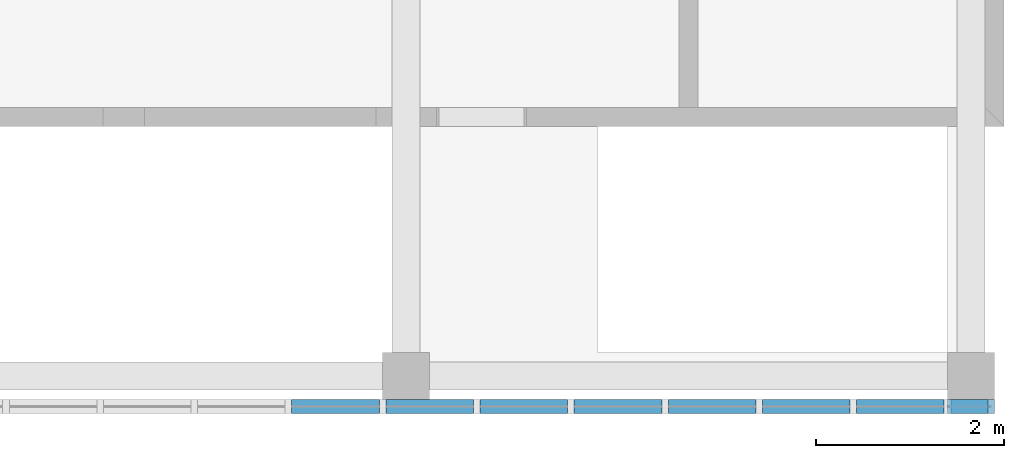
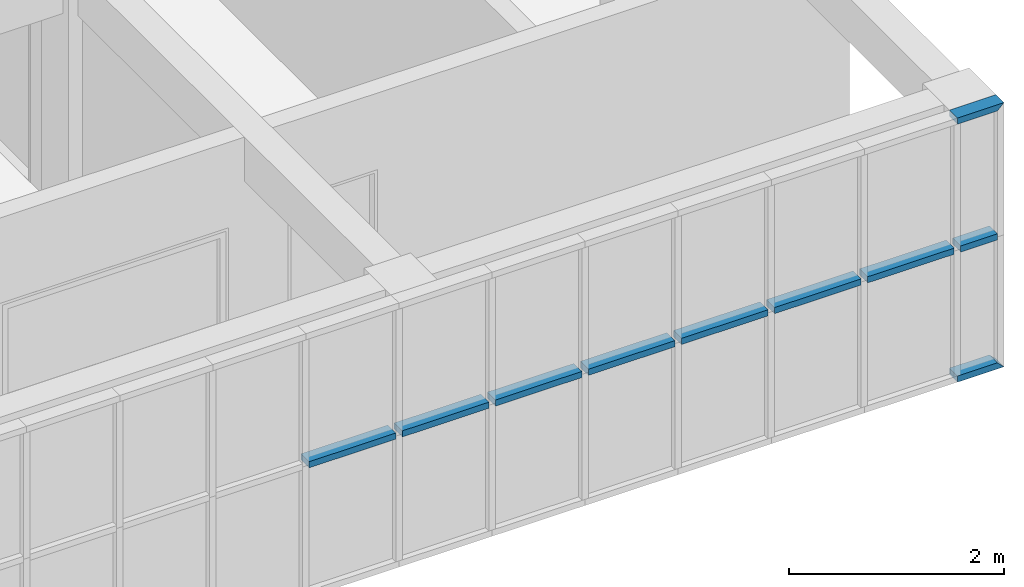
# One storey, part 4 of 4: 10 discrete accessories, 1 element without a shape of its own.
"""IFC2X3 building model written with IfcOpenShell, lengths in millimetres."""

from ifc_helpers import new_model, entity, si_unit, converted_unit, direction, frame, origin_with_axes, place, context, project, spatial, polyline, outline, extrude, source, transform, mapped, type_object, element, aggregate, save


model = new_model("IFC2X3")

# Units and contexts
model_context = context("Model", 3, precision=1e-05, world=origin_with_axes(), true_north=direction((6.123234e-17, 1.0)))
plan_context = context("Plan", 3, precision=1e-05, world=origin_with_axes(), true_north=direction((6.123234e-17, 1.0)))
ifc_project = project(units=[si_unit("LENGTHUNIT", "METRE", prefix="MILLI"), si_unit("AREAUNIT", "SQUARE_METRE"), si_unit("VOLUMEUNIT", "CUBIC_METRE"), converted_unit("PLANEANGLEUNIT", "DEGREE", entity("IfcPlaneAngleMeasure", 0.017453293), si_unit("PLANEANGLEUNIT", "RADIAN"), dimensions=[0, 0, 0, 0, 0, 0, 0]), si_unit("SOLIDANGLEUNIT", "STERADIAN"), si_unit("MASSUNIT", "GRAM"), si_unit("TIMEUNIT", "SECOND"), si_unit("THERMODYNAMICTEMPERATUREUNIT", "DEGREE_CELSIUS"), si_unit("LUMINOUSINTENSITYUNIT", "LUMEN")], contexts=[model_context, plan_context])

# Site, building, storey
site_placement = place(None, origin_with_axes())
site = spatial("IfcSite", under=ifc_project, at=site_placement, Name="\x8aO\x8d\\", CompositionType="ELEMENT")
building_placement = place(site_placement, origin_with_axes())
building = spatial("IfcBuilding", under=site, at=building_placement, Name="20101105_ArchCADMagic_002", CompositionType="ELEMENT")
storey_placement = place(building_placement, frame((0.0, 0.0, 6450.0), z_axis=(0.0, 0.0, 1.0), x_axis=(1.0, 0.0, 0.0)))
storey = spatial("IfcBuildingStorey", under=building, at=storey_placement, Name="2. 3\x8aK", CompositionType="ELEMENT", Elevation=6450.0)

# Curtain wall, discrete accessories
curtain_wall_placement = place(storey_placement, frame((-250.0, -325.0, 0.0), z_axis=(0.0, 0.0, 1.0), x_axis=(1.0, 0.0, 0.0)))
curtain_wall = element("IfcCurtainWall", 1, at=curtain_wall_placement, inside=storey, Name="CW5")
discrete_accessory_type = type_object("IfcDiscreteAccessoryType", Name="AC12_CW_Frame")
shared_shape_1 = source(origin_with_axes(), model_context, "Body", "SweptSolid", [
    extrude(outline(polyline([(0.0, 0.0), (150.0, 0.0), (150.0, -930.0), (5.5511151e-14, -930.0), (0.0, 0.0)])), origin_with_axes(), (0.0, 0.0, 1.0), 70.0),
])
discrete_accessory_1_placement = place(storey_placement, frame((16785.0, -250.0, 1535.0), z_axis=(0.0, 0.0, -1.0), x_axis=(0.0, -1.0, 0.0)))
discrete_accessory_1 = element("IfcDiscreteAccessory", 2, at=discrete_accessory_1_placement, type_object=discrete_accessory_type, Name="\x83g\x83\x89\x83\x93\x83U\x83\x80-456", context=model_context, shape_type="MappedRepresentation", body=[
    mapped(shared_shape_1, transform((0.0, 0.0, 0.0), scale=1.0)),
])
discrete_accessory_2_placement = place(storey_placement, frame((17785.0, -250.0, 1535.0), z_axis=(0.0, 0.0, -1.0), x_axis=(0.0, -1.0, 0.0)))
discrete_accessory_2 = element("IfcDiscreteAccessory", 3, at=discrete_accessory_2_placement, type_object=discrete_accessory_type, Name="\x83g\x83\x89\x83\x93\x83U\x83\x80-457", context=model_context, shape_type="MappedRepresentation", body=[
    mapped(shared_shape_1, transform((0.0, 0.0, 0.0), scale=1.0)),
])
discrete_accessory_3_placement = place(storey_placement, frame((18785.0, -250.0, 1535.0), z_axis=(0.0, 0.0, -1.0), x_axis=(0.0, -1.0, 0.0)))
discrete_accessory_3 = element("IfcDiscreteAccessory", 4, at=discrete_accessory_3_placement, type_object=discrete_accessory_type, Name="\x83g\x83\x89\x83\x93\x83U\x83\x80-458", context=model_context, shape_type="MappedRepresentation", body=[
    mapped(shared_shape_1, transform((0.0, 0.0, 0.0), scale=1.0)),
])
discrete_accessory_4_placement = place(storey_placement, frame((19785.0, -250.0, 1535.0), z_axis=(0.0, 0.0, -1.0), x_axis=(0.0, -1.0, 0.0)))
discrete_accessory_4 = element("IfcDiscreteAccessory", 5, at=discrete_accessory_4_placement, type_object=discrete_accessory_type, Name="\x83g\x83\x89\x83\x93\x83U\x83\x80-459", context=model_context, shape_type="MappedRepresentation", body=[
    mapped(shared_shape_1, transform((0.0, 0.0, 0.0), scale=1.0)),
])
discrete_accessory_5_placement = place(storey_placement, frame((20785.0, -250.0, 1535.0), z_axis=(0.0, 0.0, -1.0), x_axis=(0.0, -1.0, 0.0)))
discrete_accessory_5 = element("IfcDiscreteAccessory", 6, at=discrete_accessory_5_placement, type_object=discrete_accessory_type, Name="\x83g\x83\x89\x83\x93\x83U\x83\x80-460", context=model_context, shape_type="MappedRepresentation", body=[
    mapped(shared_shape_1, transform((0.0, 0.0, 0.0), scale=1.0)),
])
discrete_accessory_6_placement = place(storey_placement, frame((21785.0, -250.0, 1535.0), z_axis=(0.0, 0.0, -1.0), x_axis=(0.0, -1.0, 0.0)))
discrete_accessory_6 = element("IfcDiscreteAccessory", 7, at=discrete_accessory_6_placement, type_object=discrete_accessory_type, Name="\x83g\x83\x89\x83\x93\x83U\x83\x80-461", context=model_context, shape_type="MappedRepresentation", body=[
    mapped(shared_shape_1, transform((0.0, 0.0, 0.0), scale=1.0)),
])
discrete_accessory_7_placement = place(storey_placement, frame((22785.0, -250.0, 1535.0), z_axis=(0.0, 0.0, -1.0), x_axis=(0.0, -1.0, 0.0)))
discrete_accessory_7 = element("IfcDiscreteAccessory", 8, at=discrete_accessory_7_placement, type_object=discrete_accessory_type, Name="\x83g\x83\x89\x83\x93\x83U\x83\x80-462", context=model_context, shape_type="MappedRepresentation", body=[
    mapped(shared_shape_1, transform((0.0, 0.0, 0.0), scale=1.0)),
])
shared_shape_2 = source(origin_with_axes(), model_context, "Body", "SweptSolid", [
    extrude(outline(polyline([(0.0, 0.0), (70.0, 0.0), (70.0, -430.0), (0.0, -500.0), (0.0, 0.0)])), origin_with_axes(), (0.0, 0.0, 1.0), 150.0),
])
discrete_accessory_8_placement = place(storey_placement, frame((23750.0, -400.0, 3000.0), z_axis=(0.0, 1.0, 0.0), x_axis=(0.0, 0.0, -1.0)))
discrete_accessory_8 = element("IfcDiscreteAccessory", 9, at=discrete_accessory_8_placement, type_object=discrete_accessory_type, Name="\x8b«\x8aE-819", context=model_context, shape_type="MappedRepresentation", body=[
    mapped(shared_shape_2, transform((0.0, 0.0, 0.0), scale=1.0)),
])
shared_shape_3 = source(origin_with_axes(), model_context, "Body", "SweptSolid", [
    extrude(outline(polyline([(0.0, 0.0), (150.0, 0.0), (150.0, -395.0), (5.5511151e-14, -395.0), (0.0, 0.0)])), origin_with_axes(), (0.0, 0.0, 1.0), 70.0),
])
discrete_accessory_9_placement = place(storey_placement, frame((23785.0, -250.0, 1535.0), z_axis=(0.0, 0.0, -1.0), x_axis=(0.0, -1.0, 0.0)))
discrete_accessory_9 = element("IfcDiscreteAccessory", 10, at=discrete_accessory_9_placement, type_object=discrete_accessory_type, Name="\x83g\x83\x89\x83\x93\x83U\x83\x80-542", context=model_context, shape_type="MappedRepresentation", body=[
    mapped(shared_shape_3, transform((0.0, 0.0, 0.0), scale=1.0)),
])
shared_shape_4 = source(origin_with_axes(), model_context, "Body", "SweptSolid", [
    extrude(outline(polyline([(0.0, 0.0), (70.0, 0.0), (70.0, -500.0), (0.0, -430.0), (0.0, 0.0)])), origin_with_axes(), (0.0, 0.0, 1.0), 150.0),
])
discrete_accessory_10_placement = place(storey_placement, frame((23750.0, -400.0, 70.0), z_axis=(0.0, 1.0, 0.0), x_axis=(0.0, 0.0, -1.0)))
discrete_accessory_10 = element("IfcDiscreteAccessory", 11, at=discrete_accessory_10_placement, type_object=discrete_accessory_type, Name="\x8b«\x8aE-818", context=model_context, shape_type="MappedRepresentation", body=[
    mapped(shared_shape_4, transform((0.0, 0.0, 0.0), scale=1.0)),
])
aggregate(curtain_wall, [discrete_accessory_1, discrete_accessory_2, discrete_accessory_3, discrete_accessory_4, discrete_accessory_5, discrete_accessory_6, discrete_accessory_7, discrete_accessory_8, discrete_accessory_9, discrete_accessory_10])

save(model, "model.ifc")
